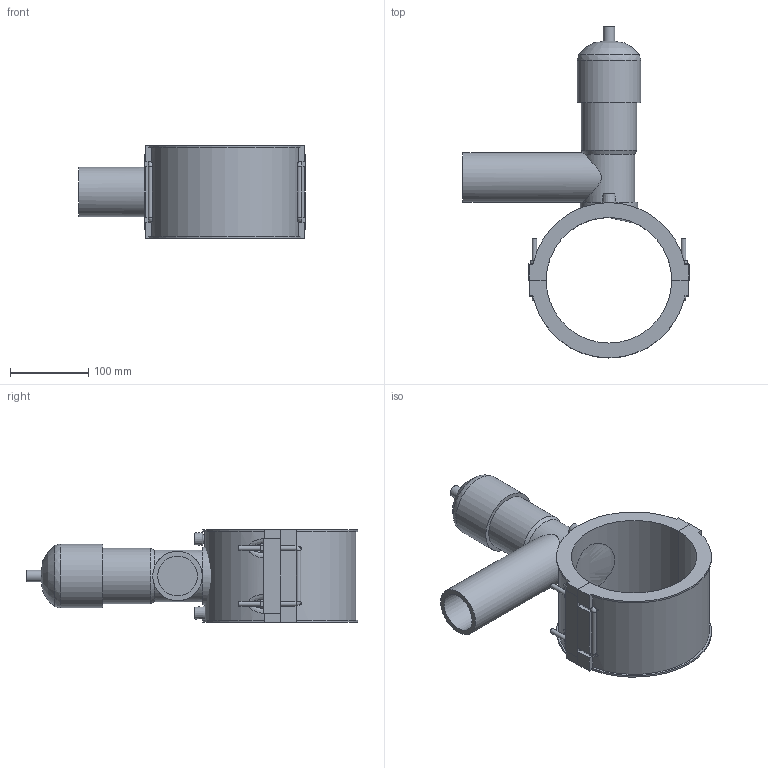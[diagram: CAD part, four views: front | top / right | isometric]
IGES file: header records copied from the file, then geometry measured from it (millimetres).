
Global section: file name: 495404160063.ipt; native system: Autodesk Inventor 2015; preprocessor: unknown; author: KIM; date: 20171106.094301; units: millimetre
Bounding box: 288 x 422.88 x 118 mm (x, y, z)
Volume: 2161332.3 mm3; surface area: 299475.6 mm2
Topology: 3 solids, 5 shells, 157 faces, 393 edges, 249 vertices
Faces by surface type: plane 93, cylinder 29, revolution 16, bspline 12, cone 7
Full cylindrical faces by diameter (mm): 4 x2, 6 x8, 14.64 x1, 63 x1, 70.76 x1, 73.2 x1, 81.333 x1
